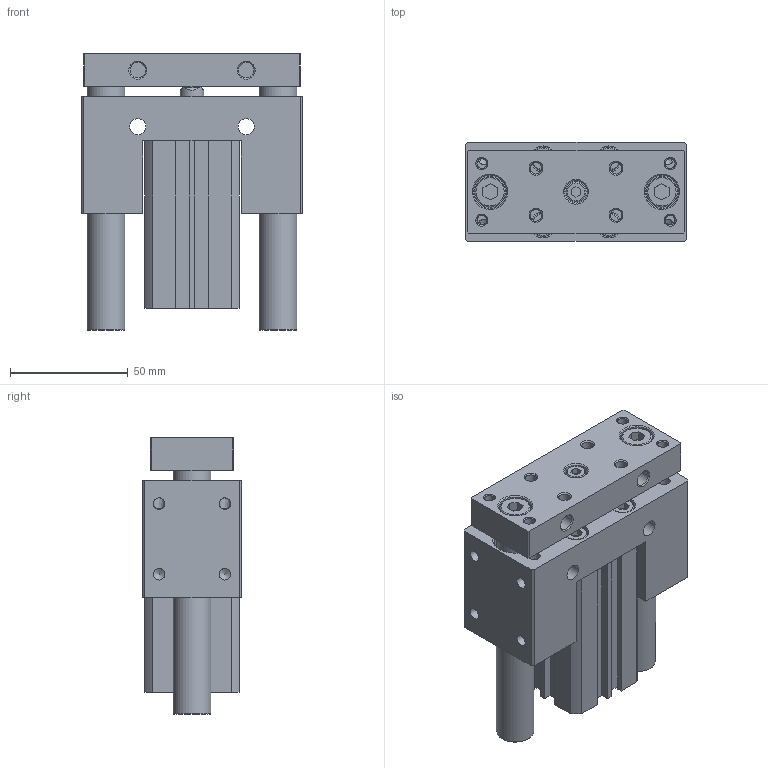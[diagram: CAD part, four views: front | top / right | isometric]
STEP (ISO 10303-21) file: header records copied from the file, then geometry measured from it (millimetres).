
FILE_DESCRIPTION((''),'2;1');
FILE_NAME('I:\3D電子目錄\氣缸\JCB\JCB\JCB25\JCB25x50.stp','2007-08-21T19:19:08',('Administrator'),(''),'Autodesk Inventor 11','Autodesk Inventor 11','');
FILE_SCHEMA(('AUTOMOTIVE_DESIGN { 1 0 10303 214 1 1 1 1 }'));
Length unit declared in the file: millimetre
Products named in the file (1): JCB25
Bounding box: 94 x 42 x 117.5 mm (x, y, z)
Volume: 282952.7 mm3; surface area: 81582.4 mm2
Topology: 5 solids, 5 shells, 323 faces, 740 edges, 483 vertices
Faces by surface type: plane 172, bspline 61, cylinder 47, cone 35, torus 8
Full cylindrical faces by diameter (mm): 1.5 x2, 4.917 x4, 5.1 x4, 6.647 x2, 8 x8, 8.5 x1, 10 x5, 11 x1, 13 x2, 16 x2, 17 x2, 18 x2, 28 x4, 29.4 x2
Entity records: 8980 total; most frequent: CARTESIAN_POINT 2309, DIRECTION 1332, ORIENTED_EDGE 1160, EDGE_CURVE 580, EDGE_LOOP 544, AXIS2_PLACEMENT_3D 493, VERTEX_POINT 454, VECTOR 346
